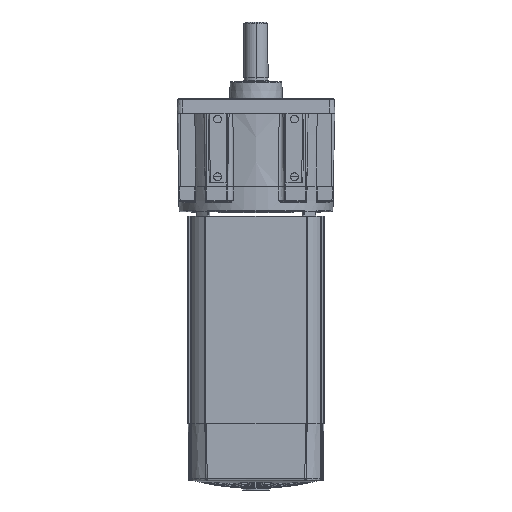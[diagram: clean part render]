
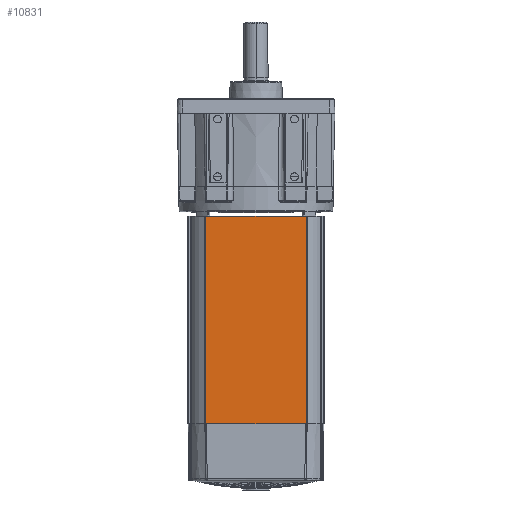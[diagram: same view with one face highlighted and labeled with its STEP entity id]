
A CAD part, front view. The second image highlights one B-rep face of the part: STEP entity #10831.
In plain terms, the highlighted planar face has unit normal (0, -1, 0).
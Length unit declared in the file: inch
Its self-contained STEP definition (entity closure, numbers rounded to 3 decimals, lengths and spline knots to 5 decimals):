
#10785 = VERTEX_POINT ( 'NONE', #28262 ) ;
#10788 = EDGE_CURVE ( 'NONE', #10790, #10785, #28261, .T. ) ;
#10790 = VERTEX_POINT ( 'NONE', #28257 ) ;
#10831 = ADVANCED_FACE ( 'NONE', ( #28348 ), #28347, .T. ) ;
#10832 = EDGE_LOOP ( 'NONE', ( #10835, #10840, #10842, #10847 ) ) ;
#10835 = ORIENTED_EDGE ( 'NONE', *, *, #10837, .F. ) ;
#10837 = EDGE_CURVE ( 'NONE', #10790, #10838, #28342, .T. ) ;
#10838 = VERTEX_POINT ( 'NONE', #28338 ) ;
#10840 = ORIENTED_EDGE ( 'NONE', *, *, #10788, .T. ) ;
#10842 = ORIENTED_EDGE ( 'NONE', *, *, #10844, .T. ) ;
#10844 = EDGE_CURVE ( 'NONE', #10785, #10845, #28337, .T. ) ;
#10845 = VERTEX_POINT ( 'NONE', #28333 ) ;
#10847 = ORIENTED_EDGE ( 'NONE', *, *, #10850, .T. ) ;
#10850 = EDGE_CURVE ( 'NONE', #10845, #10838, #28332, .T. ) ;
#28257 = CARTESIAN_POINT ( 'NONE',  ( -1.305, -1.7765, -3.0618 ) ) ;
#28258 = DIRECTION ( 'NONE',  ( 0., 0., -1. ) ) ;
#28259 = VECTOR ( 'NONE', #28258, 39.37008 ) ;
#28260 = CARTESIAN_POINT ( 'NONE',  ( -1.305, -1.7765, -8.4568 ) ) ;
#28261 = LINE ( 'NONE', #28260, #28259 ) ;
#28262 = CARTESIAN_POINT ( 'NONE',  ( -1.305, -1.7765, -8.4568 ) ) ;
#28329 = DIRECTION ( 'NONE',  ( 0., 0., 1. ) ) ;
#28330 = VECTOR ( 'NONE', #28329, 39.37008 ) ;
#28331 = CARTESIAN_POINT ( 'NONE',  ( 1.305, -1.7765, -8.4568 ) ) ;
#28332 = LINE ( 'NONE', #28331, #28330 ) ;
#28333 = CARTESIAN_POINT ( 'NONE',  ( 1.305, -1.7765, -8.4568 ) ) ;
#28334 = DIRECTION ( 'NONE',  ( 1., 0., 0. ) ) ;
#28335 = VECTOR ( 'NONE', #28334, 39.37008 ) ;
#28336 = CARTESIAN_POINT ( 'NONE',  ( -1.325, -1.7765, -8.4568 ) ) ;
#28337 = LINE ( 'NONE', #28336, #28335 ) ;
#28338 = CARTESIAN_POINT ( 'NONE',  ( 1.305, -1.7765, -3.0618 ) ) ;
#28339 = DIRECTION ( 'NONE',  ( 1., 0., 0. ) ) ;
#28340 = VECTOR ( 'NONE', #28339, 39.37008 ) ;
#28341 = CARTESIAN_POINT ( 'NONE',  ( -1.325, -1.7765, -3.0618 ) ) ;
#28342 = LINE ( 'NONE', #28341, #28340 ) ;
#28343 = DIRECTION ( 'NONE',  ( 0., 0., -1. ) ) ;
#28344 = DIRECTION ( 'NONE',  ( 0., -1., 0. ) ) ;
#28345 = CARTESIAN_POINT ( 'NONE',  ( -1.325, -1.7765, -8.4568 ) ) ;
#28346 = AXIS2_PLACEMENT_3D ( 'NONE', #28345, #28344, #28343 ) ;
#28347 = PLANE ( 'NONE',  #28346 ) ;
#28348 = FACE_OUTER_BOUND ( 'NONE', #10832, .T. ) ;
